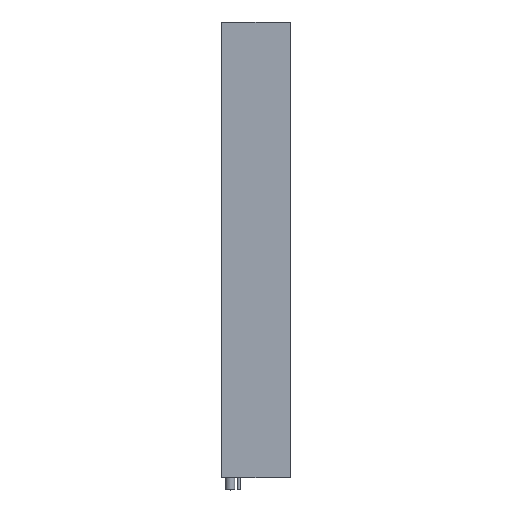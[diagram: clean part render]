
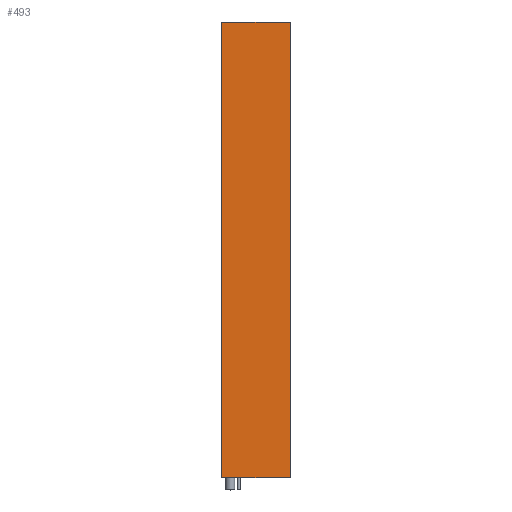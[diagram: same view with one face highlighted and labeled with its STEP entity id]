
A CAD part, top view. The second image highlights one B-rep face of the part: STEP entity #493.
In plain terms, the highlighted planar face has unit normal (0, 0, 1).
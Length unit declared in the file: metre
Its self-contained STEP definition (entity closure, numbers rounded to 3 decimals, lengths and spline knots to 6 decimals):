
#493 = ADVANCED_FACE( '', ( #1576 ), #1577, .T. );
#1576 = FACE_OUTER_BOUND( '', #2741, .T. );
#1577 = PLANE( '', #2742 );
#2741 = EDGE_LOOP( '', ( #6508, #6509, #6510, #6511 ) );
#2742 = AXIS2_PLACEMENT_3D( '', #6512, #6513, #6514 );
#6508 = ORIENTED_EDGE( '', *, *, #7493, .F. );
#6509 = ORIENTED_EDGE( '', *, *, #8184, .F. );
#6510 = ORIENTED_EDGE( '', *, *, #7453, .T. );
#6511 = ORIENTED_EDGE( '', *, *, #8185, .T. );
#6512 = CARTESIAN_POINT( '', ( 0.0642, 0.8519, 0. ) );
#6513 = DIRECTION( '', ( 0., 0., 1. ) );
#6514 = DIRECTION( '', ( 1., 0., 0. ) );
#7453 = EDGE_CURVE( '', #9171, #9169, #9172, .T. );
#7493 = EDGE_CURVE( '', #9227, #9229, #9230, .T. );
#8184 = EDGE_CURVE( '', #9171, #9227, #10302, .T. );
#8185 = EDGE_CURVE( '', #9169, #9229, #10303, .T. );
#9169 = VERTEX_POINT( '', #11594 );
#9171 = VERTEX_POINT( '', #11597 );
#9172 = LINE( '', #11598, #11599 );
#9227 = VERTEX_POINT( '', #11690 );
#9229 = VERTEX_POINT( '', #11693 );
#9230 = LINE( '', #11694, #11695 );
#10302 = LINE( '', #13244, #13245 );
#10303 = LINE( '', #13246, #13247 );
#11594 = CARTESIAN_POINT( '', ( -0.0642, 0.8519, 0. ) );
#11597 = CARTESIAN_POINT( '', ( 0.0642, 0.8519, 0. ) );
#11598 = CARTESIAN_POINT( '', ( 0.0642, 0.8519, 0. ) );
#11599 = VECTOR( '', #14206, 1. );
#11690 = CARTESIAN_POINT( '', ( 0.0642, 0.0001, 0. ) );
#11693 = CARTESIAN_POINT( '', ( -0.0642, 0.0001, 0. ) );
#11694 = CARTESIAN_POINT( '', ( 0.0642, 0.0001, 0. ) );
#11695 = VECTOR( '', #14250, 1. );
#13244 = CARTESIAN_POINT( '', ( 0.0642, 0.8519, 0. ) );
#13245 = VECTOR( '', #15367, 1. );
#13246 = CARTESIAN_POINT( '', ( -0.0642, 0.8519, 0. ) );
#13247 = VECTOR( '', #15368, 1. );
#14206 = DIRECTION( '', ( -1., 0., 0. ) );
#14250 = DIRECTION( '', ( -1., 0., 0. ) );
#15367 = DIRECTION( '', ( 0., -1., 0. ) );
#15368 = DIRECTION( '', ( 0., -1., 0. ) );
